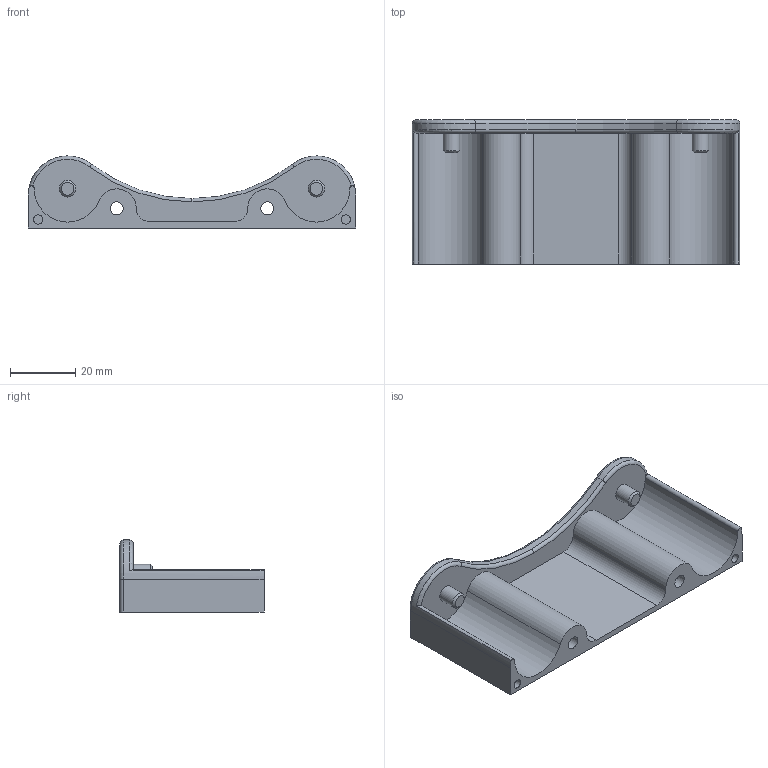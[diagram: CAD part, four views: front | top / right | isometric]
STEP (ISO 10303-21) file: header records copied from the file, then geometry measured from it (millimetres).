
FILE_DESCRIPTION(('FreeCAD Model'),'2;1');
FILE_NAME('Open CASCADE Shape Model','2025-11-29T15:58:48',( 'Benjamin W.'),('Chronic Mechatronic'), 'Open CASCADE STEP processor 7.8','FreeCAD','Unknown');
FILE_SCHEMA(('AUTOMOTIVE_DESIGN { 1 0 10303 214 1 1 1 1 }'));
Length unit declared in the file: millimetre
Products named in the file (1): half 2
Bounding box: 100 x 44 x 22 mm (x, y, z)
Volume: 25766 mm3; surface area: 15647.7 mm2
Topology: 1 solids, 1 shells, 39 faces, 93 edges, 60 vertices
Faces by surface type: cylinder 19, plane 11, torus 7, cone 2
Full cylindrical faces by diameter (mm): 2.8 x2, 4 x2, 5.1 x2
Entity records: 1246 total; most frequent: CARTESIAN_POINT 263, DIRECTION 224, ORIENTED_EDGE 186, AXIS2_PLACEMENT_3D 95, EDGE_CURVE 93, VERTEX_POINT 60, CIRCLE 55, FACE_BOUND 47
